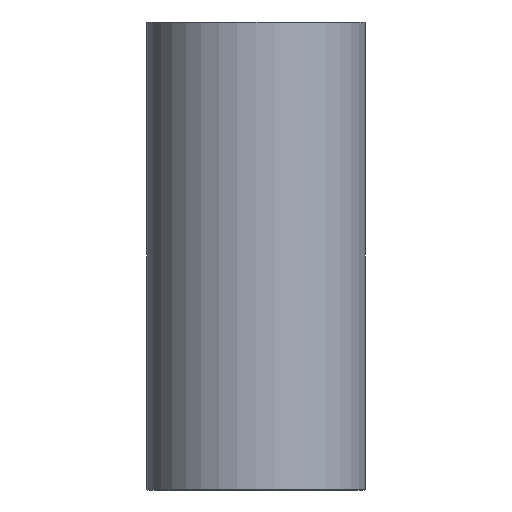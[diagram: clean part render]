
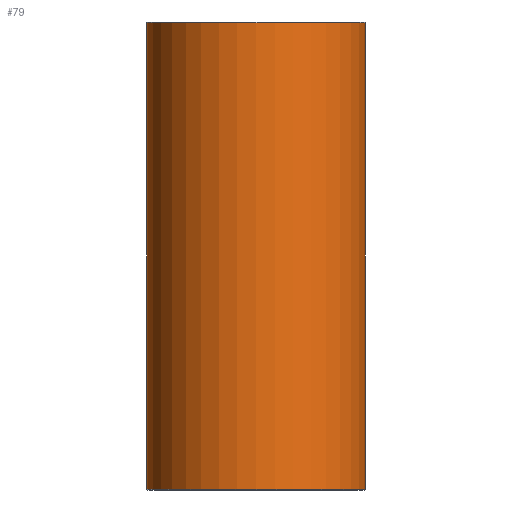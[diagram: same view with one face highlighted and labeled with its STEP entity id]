
A CAD part, front view. The second image highlights one B-rep face of the part: STEP entity #79.
In plain terms, the highlighted cylindrical face has radius 28 mm (diameter 56 mm), a full revolution.
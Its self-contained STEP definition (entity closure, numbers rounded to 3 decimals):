
#79=ADVANCED_FACE('',(#96,#97),#98,.T.);
#96=FACE_OUTER_BOUND('',#120,.T.);
#97=FACE_OUTER_BOUND('',#121,.T.);
#98=CYLINDRICAL_SURFACE('',#122,28.0);
#120=EDGE_LOOP('',(#152));
#121=EDGE_LOOP('',(#153));
#122=AXIS2_PLACEMENT_3D('',#154,#155,#156);
#152=ORIENTED_EDGE('',*,*,#178,.T.);
#153=ORIENTED_EDGE('',*,*,#177,.T.);
#154=CARTESIAN_POINT('',(0.0,0.0,120.0));
#155=DIRECTION('',(0.0,0.0,-1.0));
#156=DIRECTION('',(-1.0,0.0,0.0));
#177=EDGE_CURVE('',#190,#190,#191,.T.);
#178=EDGE_CURVE('',#192,#192,#193,.F.);
#190=VERTEX_POINT('',#206);
#191=CIRCLE('',#207,28.0);
#192=VERTEX_POINT('',#208);
#193=CIRCLE('',#209,28.0);
#206=CARTESIAN_POINT('',(28.0,0.0,0.2));
#207=AXIS2_PLACEMENT_3D('',#227,#228,#229);
#208=CARTESIAN_POINT('',(28.0,0.,119.8));
#209=AXIS2_PLACEMENT_3D('',#230,#231,#232);
#227=CARTESIAN_POINT('',(0.0,0.0,0.2));
#228=DIRECTION('',(0.0,0.0,1.0));
#229=DIRECTION('',(1.0,0.0,0.0));
#230=CARTESIAN_POINT('',(0.0,0.0,119.8));
#231=DIRECTION('',(0.0,0.0,1.0));
#232=DIRECTION('',(1.0,0.0,0.0));
